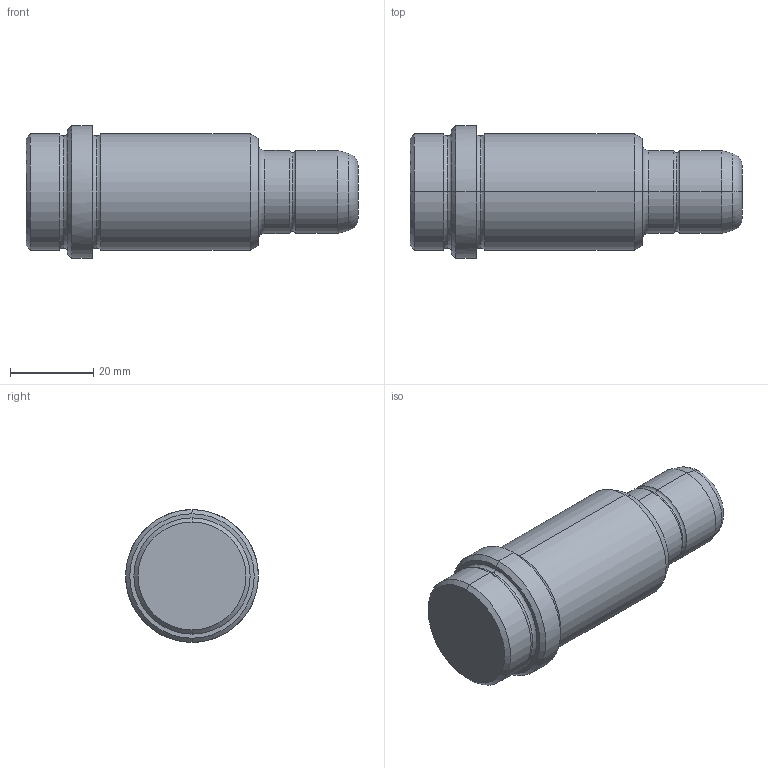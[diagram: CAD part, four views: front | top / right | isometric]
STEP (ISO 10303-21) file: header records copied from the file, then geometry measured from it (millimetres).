
FILE_DESCRIPTION(('CATIA V5 STEP Exchange'),'2;1');
FILE_NAME('C:\Users\Utente\Desktop\IO LAVORO\3D X SITO CF\X SITO\PLASTICA\357\357-20X56X80.stp','2021-08-14T09:19:42+00:00',('none'),('none'),'CATIA Version 5 Release 20 GA (IN-10)','CATIA V5 STEP AP203','none');
FILE_SCHEMA(('CONFIG_CONTROL_DESIGN'));
Length unit declared in the file: millimetre
Products named in the file (1): 357-20X56X80
Bounding box: 80 x 32 x 32 mm (x, y, z)
Volume: 42583.2 mm3; surface area: 7828.4 mm2
Topology: 1 solids, 1 shells, 39 faces, 112 edges, 78 vertices
Faces by surface type: torus 16, cylinder 10, cone 8, plane 5
Entity records: 1404 total; most frequent: CARTESIAN_POINT 342, ORIENTED_EDGE 224, DIRECTION 182, AXIS2_PLACEMENT_3D 126, EDGE_CURVE 112, CIRCLE 86, VERTEX_POINT 78, EDGE_LOOP 42
